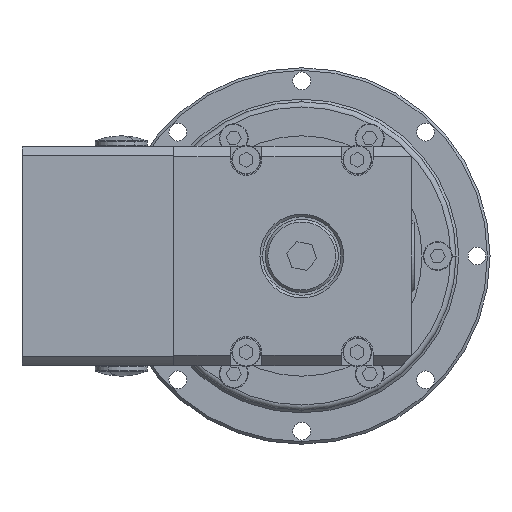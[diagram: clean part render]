
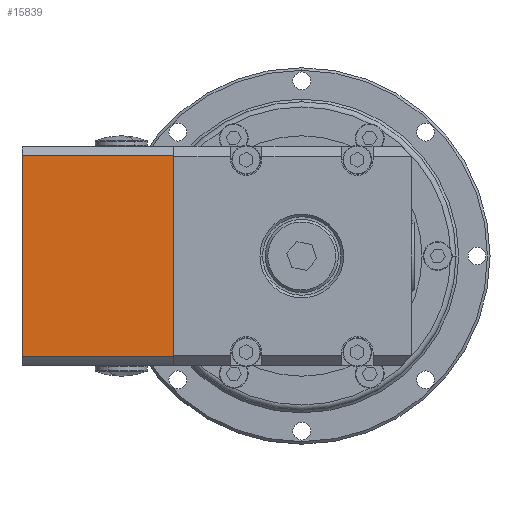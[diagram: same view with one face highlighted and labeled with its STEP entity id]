
A CAD part, left-side view. The second image highlights one B-rep face of the part: STEP entity #15839.
In plain terms, the highlighted planar face has unit normal (-1, 0, 0).
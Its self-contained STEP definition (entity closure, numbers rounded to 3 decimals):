
#1153 = ORIENTED_EDGE ( 'NONE', *, *, #6041, .T. ) ;
#1390 = LINE ( 'NONE', #14565, #23101 ) ;
#1574 = EDGE_LOOP ( 'NONE', ( #14863, #26838, #1153, #8790 ) ) ;
#1655 = VECTOR ( 'NONE', #26759, 1000. ) ;
#3129 = VERTEX_POINT ( 'NONE', #8436 ) ;
#3154 = DIRECTION ( 'NONE',  ( 0., 0., 1. ) ) ;
#4053 = FACE_OUTER_BOUND ( 'NONE', #1574, .T. ) ;
#4314 = CARTESIAN_POINT ( 'NONE',  ( -69., 53.5, -21. ) ) ;
#5010 = EDGE_CURVE ( 'NONE', #24602, #16946, #1390, .T. ) ;
#6041 = EDGE_CURVE ( 'NONE', #3129, #24467, #12561, .T. ) ;
#8436 = CARTESIAN_POINT ( 'NONE',  ( -69., 24.5, 19.268 ) ) ;
#8790 = ORIENTED_EDGE ( 'NONE', *, *, #25299, .F. ) ;
#10084 = DIRECTION ( 'NONE',  ( 0., 1., 0. ) ) ;
#10275 = CARTESIAN_POINT ( 'NONE',  ( -69., 24.5, 19.268 ) ) ;
#12018 = CARTESIAN_POINT ( 'NONE',  ( -69., 53.5, -21. ) ) ;
#12561 = LINE ( 'NONE', #10275, #17796 ) ;
#12796 = CARTESIAN_POINT ( 'NONE',  ( -69., 24.5, -19.268 ) ) ;
#13781 = VECTOR ( 'NONE', #3154, 1000. ) ;
#14282 = DIRECTION ( 'NONE',  ( 0., 1., 0. ) ) ;
#14565 = CARTESIAN_POINT ( 'NONE',  ( -69., 24.5, -19.268 ) ) ;
#14863 = ORIENTED_EDGE ( 'NONE', *, *, #5010, .F. ) ;
#15839 = ADVANCED_FACE ( 'NONE', ( #4053 ), #18664, .F. ) ;
#16946 = VERTEX_POINT ( 'NONE', #23773 ) ;
#17796 = VECTOR ( 'NONE', #28162, 1000. ) ;
#17964 = EDGE_CURVE ( 'NONE', #24602, #3129, #25667, .T. ) ;
#18664 = PLANE ( 'NONE',  #27890 ) ;
#19525 = LINE ( 'NONE', #4314, #1655 ) ;
#23101 = VECTOR ( 'NONE', #10084, 1000. ) ;
#23551 = CARTESIAN_POINT ( 'NONE',  ( -69., 53.5, 19.268 ) ) ;
#23773 = CARTESIAN_POINT ( 'NONE',  ( -69., 53.5, -19.268 ) ) ;
#24467 = VERTEX_POINT ( 'NONE', #23551 ) ;
#24602 = VERTEX_POINT ( 'NONE', #12796 ) ;
#25299 = EDGE_CURVE ( 'NONE', #16946, #24467, #19525, .T. ) ;
#25667 = LINE ( 'NONE', #27741, #13781 ) ;
#26759 = DIRECTION ( 'NONE',  ( 0., 0., 1. ) ) ;
#26838 = ORIENTED_EDGE ( 'NONE', *, *, #17964, .T. ) ;
#27682 = DIRECTION ( 'NONE',  ( 1., 0., 0. ) ) ;
#27741 = CARTESIAN_POINT ( 'NONE',  ( -69., 24.5, -21. ) ) ;
#27890 = AXIS2_PLACEMENT_3D ( 'NONE', #12018, #27682, #14282 ) ;
#28162 = DIRECTION ( 'NONE',  ( 0., 1., 0. ) ) ;
